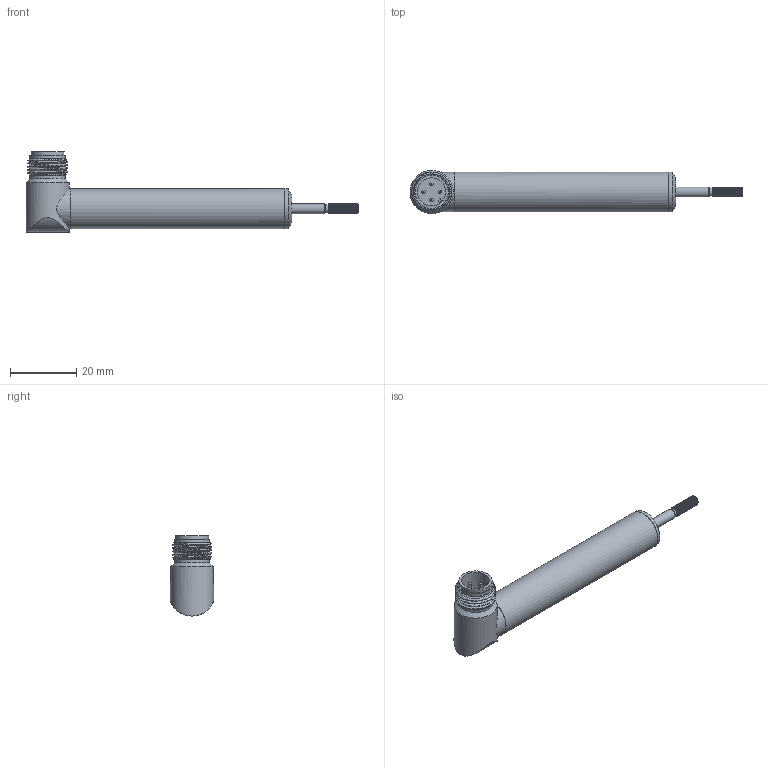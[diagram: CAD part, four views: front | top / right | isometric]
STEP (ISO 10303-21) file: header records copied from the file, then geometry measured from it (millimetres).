
FILE_DESCRIPTION( ( 'STEP AP214' ), '1' );
FILE_NAME( 'N:/Engineering/CAD_Solid/LVDT/SM/Kunden-3D-Modell/SM10-SG-SR.stp', '2011-12-12T13:37:27', ( ' ' ), ( ' ' ), 'XStep 1.0', ' ', ' ' );
FILE_SCHEMA( ( 'CONFIG_CONTROL_DESIGN) ( )' ) );
Length unit declared in the file: metre
Products named in the file (3): 1; 2; 3
Bounding box: 100 x 13 x 24.1 mm (x, y, z)
Surface area: 4718.8 mm2 (no closed solid volume)
Topology: 0 solids, 52 shells, 52 faces, 208 edges, 186 vertices
Faces by surface type: cylinder 20, plane 15, bspline 9, cone 8
Full cylindrical faces by diameter (mm): 1 x4, 2.4 x1, 3 x1, 8.5 x1, 10 x1, 10.6 x2, 11.8 x1, 12 x2, 13 x1
Entity records: 6685 total; most frequent: CARTESIAN_POINT 4795, DIRECTION 302, ORIENTED_EDGE 175, EDGE_CURVE 175, VERTEX_POINT 175, AXIS2_PLACEMENT_3D 137, CIRCLE 91, FACE_BOUND 88
